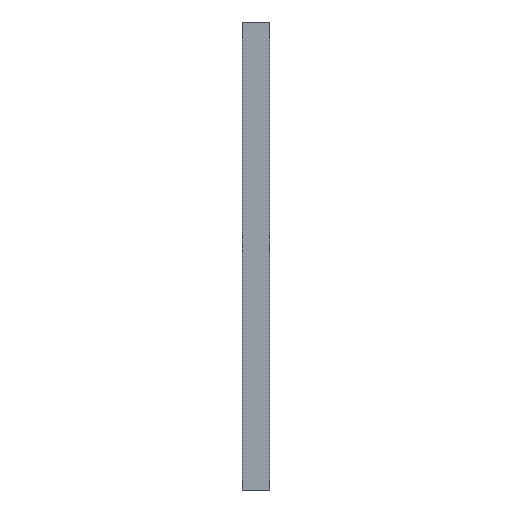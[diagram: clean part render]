
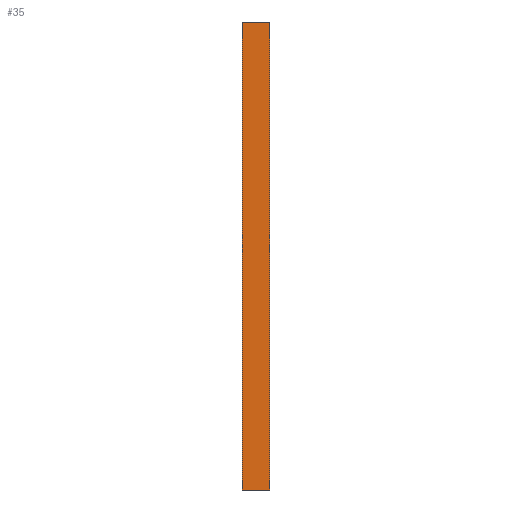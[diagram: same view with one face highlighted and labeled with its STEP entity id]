
A CAD part, left-side view. The second image highlights one B-rep face of the part: STEP entity #35.
In plain terms, the highlighted planar face has unit normal (-1, 0, 0).
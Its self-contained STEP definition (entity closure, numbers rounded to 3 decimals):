
#35 = ADVANCED_FACE('',(#36),#50,.F.);
#36 = FACE_BOUND('',#37,.F.);
#37 = EDGE_LOOP('',(#38,#73,#101,#129));
#38 = ORIENTED_EDGE('',*,*,#39,.F.);
#39 = EDGE_CURVE('',#40,#42,#44,.T.);
#40 = VERTEX_POINT('',#41);
#41 = CARTESIAN_POINT('',(-26.,-4.2,-42.));
#42 = VERTEX_POINT('',#43);
#43 = CARTESIAN_POINT('',(-26.,-4.2,-15.));
#44 = SURFACE_CURVE('',#45,(#49,#61),.PCURVE_S1.);
#45 = LINE('',#46,#47);
#46 = CARTESIAN_POINT('',(-26.,-4.2,-42.));
#47 = VECTOR('',#48,1.);
#48 = DIRECTION('',(0.,0.,1.));
#49 = PCURVE('',#50,#55);
#50 = PLANE('',#51);
#51 = AXIS2_PLACEMENT_3D('',#52,#53,#54);
#52 = CARTESIAN_POINT('',(-26.,-4.2,-42.));
#53 = DIRECTION('',(1.,0.,0.));
#54 = DIRECTION('',(0.,0.,1.));
#55 = DEFINITIONAL_REPRESENTATION('',(#56),#60);
#56 = LINE('',#57,#58);
#57 = CARTESIAN_POINT('',(0.,0.));
#58 = VECTOR('',#59,1.);
#59 = DIRECTION('',(1.,0.));
#60 = ( GEOMETRIC_REPRESENTATION_CONTEXT(2) 
PARAMETRIC_REPRESENTATION_CONTEXT() REPRESENTATION_CONTEXT('2D SPACE',''
  ) );
#61 = PCURVE('',#62,#67);
#62 = PLANE('',#63);
#63 = AXIS2_PLACEMENT_3D('',#64,#65,#66);
#64 = CARTESIAN_POINT('',(-26.,-4.2,-42.));
#65 = DIRECTION('',(0.,1.,0.));
#66 = DIRECTION('',(0.,-0.,1.));
#67 = DEFINITIONAL_REPRESENTATION('',(#68),#72);
#68 = LINE('',#69,#70);
#69 = CARTESIAN_POINT('',(0.,0.));
#70 = VECTOR('',#71,1.);
#71 = DIRECTION('',(1.,0.));
#72 = ( GEOMETRIC_REPRESENTATION_CONTEXT(2) 
PARAMETRIC_REPRESENTATION_CONTEXT() REPRESENTATION_CONTEXT('2D SPACE',''
  ) );
#73 = ORIENTED_EDGE('',*,*,#74,.T.);
#74 = EDGE_CURVE('',#40,#75,#77,.T.);
#75 = VERTEX_POINT('',#76);
#76 = CARTESIAN_POINT('',(-26.,-2.6,-42.));
#77 = SURFACE_CURVE('',#78,(#82,#89),.PCURVE_S1.);
#78 = LINE('',#79,#80);
#79 = CARTESIAN_POINT('',(-26.,-4.2,-42.));
#80 = VECTOR('',#81,1.);
#81 = DIRECTION('',(0.,1.,0.));
#82 = PCURVE('',#50,#83);
#83 = DEFINITIONAL_REPRESENTATION('',(#84),#88);
#84 = LINE('',#85,#86);
#85 = CARTESIAN_POINT('',(0.,0.));
#86 = VECTOR('',#87,1.);
#87 = DIRECTION('',(0.,-1.));
#88 = ( GEOMETRIC_REPRESENTATION_CONTEXT(2) 
PARAMETRIC_REPRESENTATION_CONTEXT() REPRESENTATION_CONTEXT('2D SPACE',''
  ) );
#89 = PCURVE('',#90,#95);
#90 = PLANE('',#91);
#91 = AXIS2_PLACEMENT_3D('',#92,#93,#94);
#92 = CARTESIAN_POINT('',(-26.,-4.2,-42.));
#93 = DIRECTION('',(0.,0.,1.));
#94 = DIRECTION('',(1.,0.,-0.));
#95 = DEFINITIONAL_REPRESENTATION('',(#96),#100);
#96 = LINE('',#97,#98);
#97 = CARTESIAN_POINT('',(0.,0.));
#98 = VECTOR('',#99,1.);
#99 = DIRECTION('',(0.,1.));
#100 = ( GEOMETRIC_REPRESENTATION_CONTEXT(2) 
PARAMETRIC_REPRESENTATION_CONTEXT() REPRESENTATION_CONTEXT('2D SPACE',''
  ) );
#101 = ORIENTED_EDGE('',*,*,#102,.T.);
#102 = EDGE_CURVE('',#75,#103,#105,.T.);
#103 = VERTEX_POINT('',#104);
#104 = CARTESIAN_POINT('',(-26.,-2.6,-15.));
#105 = SURFACE_CURVE('',#106,(#110,#117),.PCURVE_S1.);
#106 = LINE('',#107,#108);
#107 = CARTESIAN_POINT('',(-26.,-2.6,-42.));
#108 = VECTOR('',#109,1.);
#109 = DIRECTION('',(0.,0.,1.));
#110 = PCURVE('',#50,#111);
#111 = DEFINITIONAL_REPRESENTATION('',(#112),#116);
#112 = LINE('',#113,#114);
#113 = CARTESIAN_POINT('',(0.,-1.6));
#114 = VECTOR('',#115,1.);
#115 = DIRECTION('',(1.,0.));
#116 = ( GEOMETRIC_REPRESENTATION_CONTEXT(2) 
PARAMETRIC_REPRESENTATION_CONTEXT() REPRESENTATION_CONTEXT('2D SPACE',''
  ) );
#117 = PCURVE('',#118,#123);
#118 = PLANE('',#119);
#119 = AXIS2_PLACEMENT_3D('',#120,#121,#122);
#120 = CARTESIAN_POINT('',(-26.,-2.6,-42.));
#121 = DIRECTION('',(0.,1.,0.));
#122 = DIRECTION('',(0.,-0.,1.));
#123 = DEFINITIONAL_REPRESENTATION('',(#124),#128);
#124 = LINE('',#125,#126);
#125 = CARTESIAN_POINT('',(0.,0.));
#126 = VECTOR('',#127,1.);
#127 = DIRECTION('',(1.,0.));
#128 = ( GEOMETRIC_REPRESENTATION_CONTEXT(2) 
PARAMETRIC_REPRESENTATION_CONTEXT() REPRESENTATION_CONTEXT('2D SPACE',''
  ) );
#129 = ORIENTED_EDGE('',*,*,#130,.F.);
#130 = EDGE_CURVE('',#42,#103,#131,.T.);
#131 = SURFACE_CURVE('',#132,(#136,#143),.PCURVE_S1.);
#132 = LINE('',#133,#134);
#133 = CARTESIAN_POINT('',(-26.,-4.2,-15.));
#134 = VECTOR('',#135,1.);
#135 = DIRECTION('',(0.,1.,0.));
#136 = PCURVE('',#50,#137);
#137 = DEFINITIONAL_REPRESENTATION('',(#138),#142);
#138 = LINE('',#139,#140);
#139 = CARTESIAN_POINT('',(27.,0.));
#140 = VECTOR('',#141,1.);
#141 = DIRECTION('',(0.,-1.));
#142 = ( GEOMETRIC_REPRESENTATION_CONTEXT(2) 
PARAMETRIC_REPRESENTATION_CONTEXT() REPRESENTATION_CONTEXT('2D SPACE',''
  ) );
#143 = PCURVE('',#144,#149);
#144 = PLANE('',#145);
#145 = AXIS2_PLACEMENT_3D('',#146,#147,#148);
#146 = CARTESIAN_POINT('',(-26.,-4.2,-15.));
#147 = DIRECTION('',(0.,0.,1.));
#148 = DIRECTION('',(1.,0.,-0.));
#149 = DEFINITIONAL_REPRESENTATION('',(#150),#154);
#150 = LINE('',#151,#152);
#151 = CARTESIAN_POINT('',(0.,0.));
#152 = VECTOR('',#153,1.);
#153 = DIRECTION('',(0.,1.));
#154 = ( GEOMETRIC_REPRESENTATION_CONTEXT(2) 
PARAMETRIC_REPRESENTATION_CONTEXT() REPRESENTATION_CONTEXT('2D SPACE',''
  ) );
